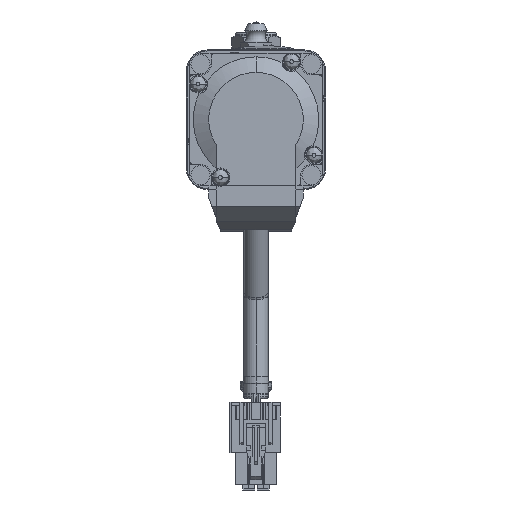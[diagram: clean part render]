
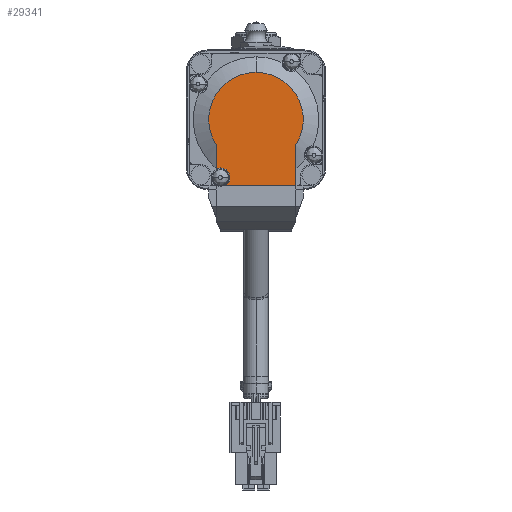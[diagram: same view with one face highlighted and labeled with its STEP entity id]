
A CAD part, front view. The second image highlights one B-rep face of the part: STEP entity #29341.
In plain terms, the highlighted planar face has unit normal (0, -1, 0) as drawn and (-1, 0, 0) by its records, which use the part's own axes.
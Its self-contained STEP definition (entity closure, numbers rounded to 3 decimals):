
#25124=CARTESIAN_POINT('',(-92.,16.6,10.2));
#25125=DIRECTION('',(1.,0.,0.));
#25126=DIRECTION('',(0.,-0.891,0.455));
#25127=AXIS2_PLACEMENT_3D('',#25124,#25125,#25126);
#25129=DIRECTION('',(0.,1.,0.));
#25130=VECTOR('',#25129,6.903);
#25131=CARTESIAN_POINT('',(-92.,7.247,11.45));
#25132=LINE('',#25131,#25130);
#25133=CARTESIAN_POINT('',(-92.,0.,0.));
#25134=DIRECTION('',(-1.,0.,0.));
#25135=DIRECTION('',(0.,-1.,0.));
#25136=AXIS2_PLACEMENT_3D('',#25133,#25134,#25135);
#25138=CARTESIAN_POINT('',(-92.,0.,0.));
#25139=DIRECTION('',(-1.,0.,0.));
#25140=DIRECTION('',(0.,0.535,-0.845));
#25141=AXIS2_PLACEMENT_3D('',#25138,#25139,#25140);
#25143=DIRECTION('',(0.,-1.,0.));
#25144=VECTOR('',#25143,11.753);
#25145=CARTESIAN_POINT('',(-92.,19.,-11.45));
#25146=LINE('',#25145,#25144);
#25147=DIRECTION('',(0.,0.,-1.));
#25148=VECTOR('',#25147,20.307);
#25149=CARTESIAN_POINT('',(-92.,19.,8.857));
#25150=LINE('',#25149,#25148);
#25151=CARTESIAN_POINT('',(-92.,16.6,10.2));
#25152=DIRECTION('',(1.,0.,0.));
#25153=DIRECTION('',(0.,-1.,0.));
#25154=AXIS2_PLACEMENT_3D('',#25151,#25152,#25153);
#25160=CARTESIAN_POINT('',(-92.,7.247,11.45));
#25860=CARTESIAN_POINT('',(-92.,13.85,10.2));
#25862=VERTEX_POINT('',#25860);
#25866=CARTESIAN_POINT('',(-92.,19.,8.857));
#25867=VERTEX_POINT('',#25866);
#25938=CARTESIAN_POINT('',(-92.,-13.551,0.));
#25940=VERTEX_POINT('',#25938);
#25941=CARTESIAN_POINT('',(-92.,7.247,-11.45));
#25942=VERTEX_POINT('',#25941);
#26196=VERTEX_POINT('',#25160);
#26209=CARTESIAN_POINT('',(-92.,14.151,11.45));
#26210=VERTEX_POINT('',#26209);
#26215=CARTESIAN_POINT('',(-92.,19.,-11.45));
#26216=VERTEX_POINT('',#26215);
#29326=CARTESIAN_POINT('',(-92.,-6.775,0.));
#29327=DIRECTION('',(-1.,0.,0.));
#29328=DIRECTION('',(0.,1.,0.));
#29329=AXIS2_PLACEMENT_3D('',#29326,#29327,#29328);
#29330=PLANE('',#29329);
#29331=ORIENTED_EDGE('',*,*,#29018,.F.);
#29333=ORIENTED_EDGE('',*,*,#29332,.F.);
#29334=ORIENTED_EDGE('',*,*,#29315,.F.);
#29335=ORIENTED_EDGE('',*,*,#29304,.F.);
#29336=ORIENTED_EDGE('',*,*,#29282,.F.);
#29337=ORIENTED_EDGE('',*,*,#28974,.F.);
#29338=ORIENTED_EDGE('',*,*,#29000,.F.);
#29339=EDGE_LOOP('',(#29331,#29333,#29334,#29335,#29336,#29337,#29338));
#29340=FACE_OUTER_BOUND('',#29339,.F.);
#29341=ADVANCED_FACE('',(#29340),#29330,.T.);
#25128=CIRCLE('',#25127,2.75);
#25137=CIRCLE('',#25136,13.551);
#25142=CIRCLE('',#25141,13.551);
#25155=CIRCLE('',#25154,2.75);
#28974=EDGE_CURVE('',#25867,#26216,#25150,.T.);
#29000=EDGE_CURVE('',#25862,#25867,#25155,.T.);
#29018=EDGE_CURVE('',#26210,#25862,#25128,.T.);
#29282=EDGE_CURVE('',#26216,#25942,#25146,.T.);
#29304=EDGE_CURVE('',#25942,#25940,#25142,.T.);
#29315=EDGE_CURVE('',#25940,#26196,#25137,.T.);
#29332=EDGE_CURVE('',#26196,#26210,#25132,.T.);
